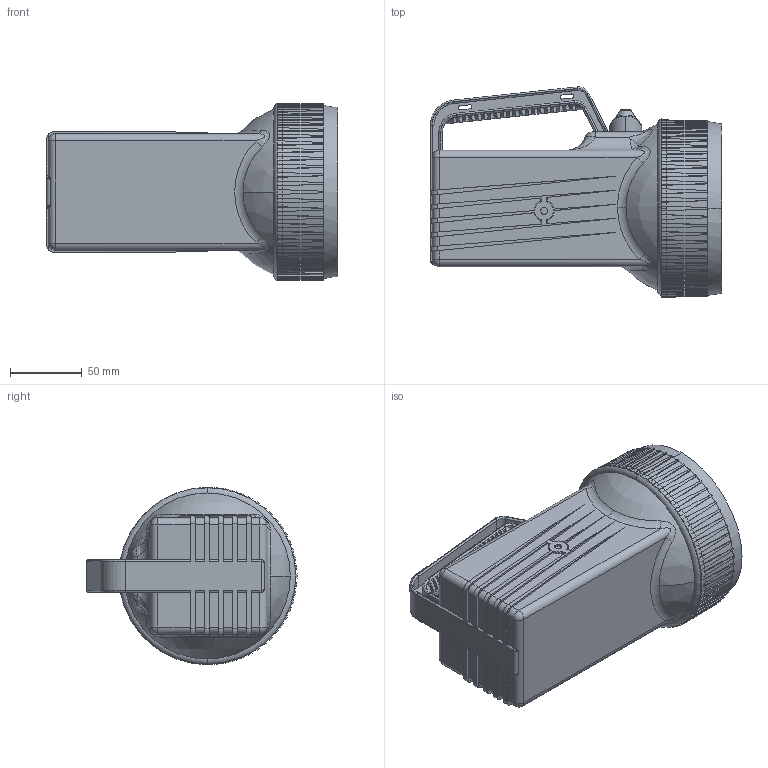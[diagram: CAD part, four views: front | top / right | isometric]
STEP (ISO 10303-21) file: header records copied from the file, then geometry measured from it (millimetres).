
FILE_DESCRIPTION (( 'STEP AP214' ), '1' );
FILE_NAME ('LE-2206.STEP', '2016-01-13T17:22:22', ( '' ), ( '' ), 'SwSTEP 2.0', 'SolidWorks 2016', '' );
FILE_SCHEMA (( 'AUTOMOTIVE_DESIGN' ));
Length unit declared in the file: inch
Products named in the file (4): LE-2206 Cover; LE-2206 Lens; LE-2206 Body; LE-2206
Assembly tree (3 placements, depth 2):
  LE-2206
    LE-2206 Body
    LE-2206 Lens
    LE-2206 Cover
Bounding box: 203 x 146.56 x 123.5 mm (x, y, z)
Volume: 1006578.5 mm3; surface area: 205108 mm2
Topology: 4 solids, 4 shells, 1064 faces, 2812 edges, 1757 vertices
Faces by surface type: plane 631, cylinder 274, bspline 108, torus 39, sphere 6, cone 6
Entity records: 38224 total; most frequent: CARTESIAN_POINT 12770, ORIENTED_EDGE 5604, DIRECTION 4937, EDGE_CURVE 2802, VERTEX_POINT 1757, AXIS2_PLACEMENT_3D 1746, LINE 1445, VECTOR 1445
